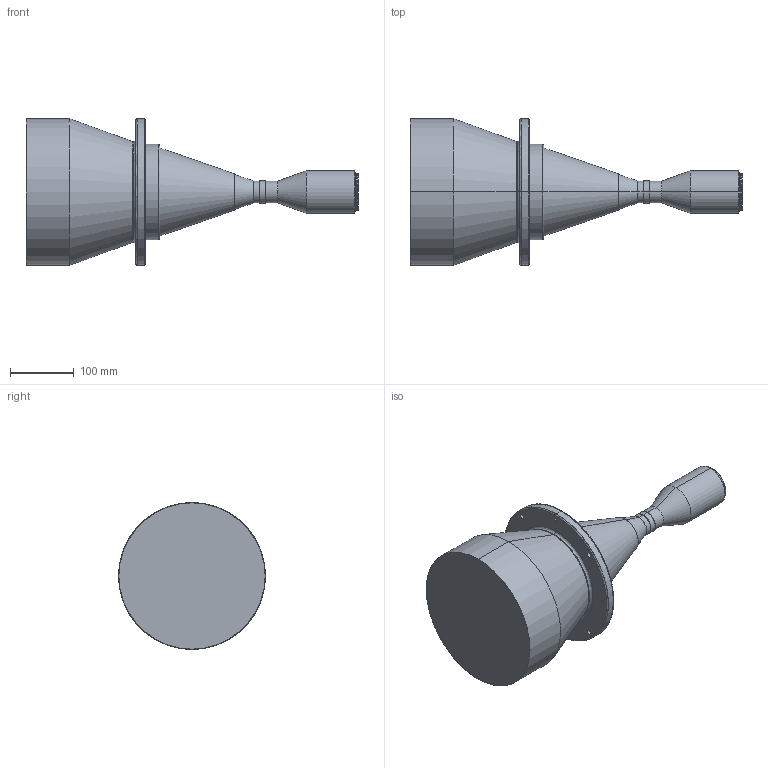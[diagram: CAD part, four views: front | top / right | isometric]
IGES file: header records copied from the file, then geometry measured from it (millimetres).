
Start section: SolidWorks IGES file using analytic representation for surfaces
Global section: file name: D:\苳柈隴\sw\DTCM\DTCM71M\M58\DTCM71M-190-M58-AL\DTCM71M-190-M58-AL.IGS,15; native system: HSolidWorks 2017; preprocessor: SolidWorks 2017; author: Administrator; date: 191119.163921; units: millimetre
Bounding box: 520.4 x 230 x 230 mm (x, y, z)
Surface area: 301029 mm2 (no closed solid volume)
Topology: 0 solids, 0 shells, 70 faces, 1776 edges, 1776 vertices
Faces by surface type: revolution 48, bspline 22
